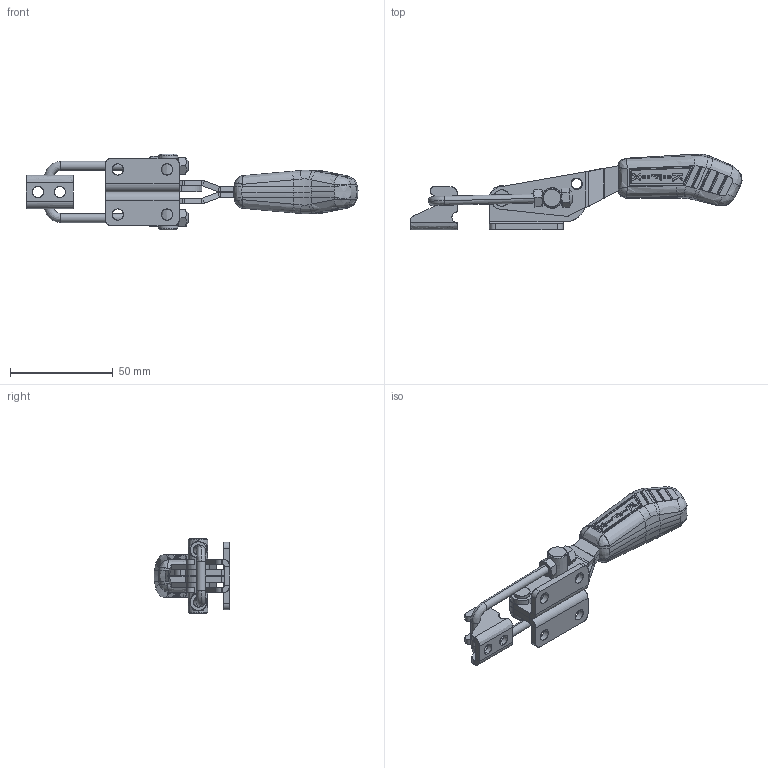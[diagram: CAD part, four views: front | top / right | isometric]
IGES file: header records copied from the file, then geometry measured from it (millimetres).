
Start section: SolidWorks IGES file using analytic representation for surfaces
Global section: file name: C:\Projetos\Grampos\KF-743\KF-743 DC\KF-743 DC.IGS; native system: SolidWorks 2015; preprocessor: SolidWorks 2015; author: Ricardo; date: 171005.085927; units: millimetre
Bounding box: 161.74 x 36.99 x 37 mm (x, y, z)
Surface area: 25678.5 mm2 (no closed solid volume)
Topology: 0 solids, 0 shells, 930 faces, 9370 edges, 9315 vertices
Faces by surface type: bspline 533, revolution 397
